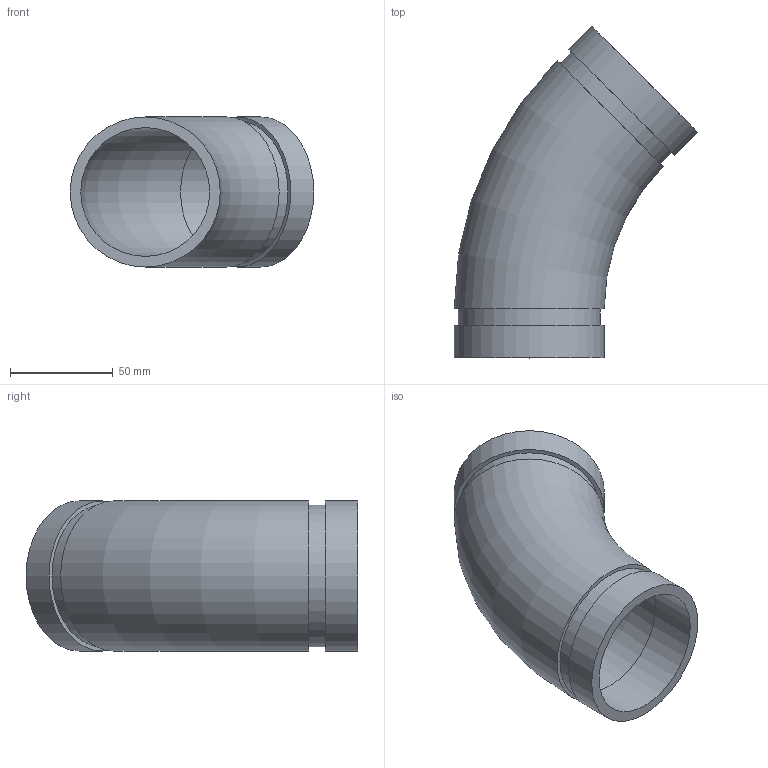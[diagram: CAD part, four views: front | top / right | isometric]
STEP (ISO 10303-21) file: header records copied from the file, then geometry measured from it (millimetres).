
FILE_DESCRIPTION(/* description */ ('VIC SS ELBOW 45 DEG No 411DX (OGS)'),/* implementation_level */ '2;1');
FILE_NAME(/* name */ 'C:\Files for Export\SS Duplex\STEP\Victaulic_SS-OGS_Elb 45 Deg_No 411DX (OGS)\Victaulic_SS-OGS_Elb 45 Deg_No 411DX (OGS)_2.5 (65).stp',/* time_stamp */ '2024-08-28T10:36:12+02:00',/* author */ ('CORINNE GRAY'),/* organization */ ('Victaulic'),/* preprocessor_version */ 'ST-DEVELOPER v18.1',/* originating_system */ 'Autodesk Inventor 2020',/* authorisation */ '');
FILE_SCHEMA (('AUTOMOTIVE_DESIGN { 1 0 10303 214 3 1 1 }'));
Length unit declared in the file: inch
Products named in the file (1): 411DX-02.5
Bounding box: 118.55 x 161.54 x 73.03 mm (x, y, z)
Volume: 161460.9 mm3; surface area: 69097.9 mm2
Topology: 1 solids, 1 shells, 14 faces, 26 edges, 18 vertices
Faces by surface type: plane 6, cylinder 6, torus 2
Full cylindrical faces by diameter (mm): 62.713 x2, 69.088 x2, 73.025 x2
Entity records: 427 total; most frequent: DIRECTION 76, CARTESIAN_POINT 59, ORIENTED_EDGE 52, AXIS2_PLACEMENT_3D 35, EDGE_CURVE 26, EDGE_LOOP 20, CIRCLE 20, VERTEX_POINT 18
